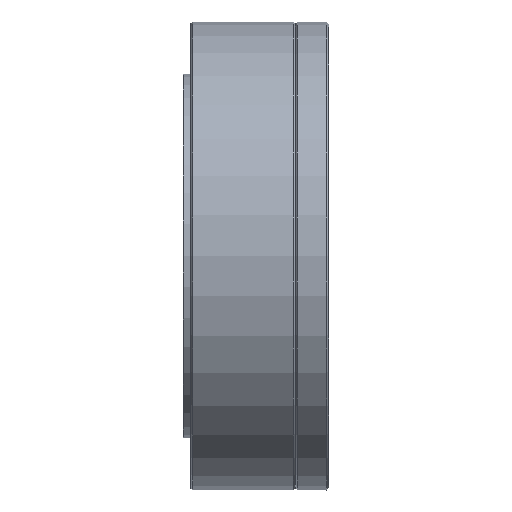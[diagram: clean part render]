
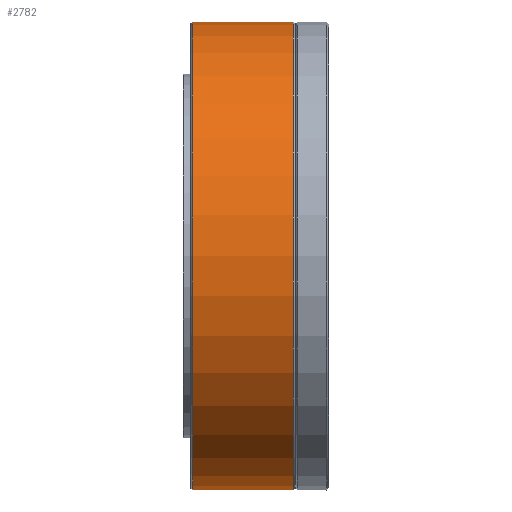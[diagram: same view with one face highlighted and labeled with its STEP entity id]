
A CAD part, top view. The second image highlights one B-rep face of the part: STEP entity #2782.
In plain terms, the highlighted cylindrical face has radius 45 mm (diameter 90 mm), a partial arc.
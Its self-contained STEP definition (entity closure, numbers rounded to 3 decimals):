
#375 = DIRECTION ( 'NONE',  ( 0., -1., 0. ) ) ;
#1568 = CARTESIAN_POINT ( 'NONE',  ( 1.823, 0., 0. ) ) ;
#1606 = CARTESIAN_POINT ( 'NONE',  ( 1.823, -45., 0. ) ) ;
#2230 = VERTEX_POINT ( 'NONE', #1606 ) ;
#2782 = ADVANCED_FACE ( 'NONE', ( #17929 ), #5691, .T. ) ;
#3142 = EDGE_CURVE ( 'NONE', #25618, #3881, #26569, .T. ) ;
#3627 = DIRECTION ( 'NONE',  ( 0., -1., 0. ) ) ;
#3881 = VERTEX_POINT ( 'NONE', #18166 ) ;
#4779 = LINE ( 'NONE', #16839, #14440 ) ;
#5691 = CYLINDRICAL_SURFACE ( 'NONE', #11014, 45. ) ;
#6420 = AXIS2_PLACEMENT_3D ( 'NONE', #1568, #15980, #3627 ) ;
#6581 = EDGE_CURVE ( 'NONE', #2230, #3881, #14257, .T. ) ;
#6827 = CARTESIAN_POINT ( 'NONE',  ( 21.177, 45., 0. ) ) ;
#7222 = VERTEX_POINT ( 'NONE', #18602 ) ;
#8665 = DIRECTION ( 'NONE',  ( 0., -1., 0. ) ) ;
#9859 = DIRECTION ( 'NONE',  ( -1., 0., 0. ) ) ;
#10191 = VECTOR ( 'NONE', #26252, 1000. ) ;
#11014 = AXIS2_PLACEMENT_3D ( 'NONE', #24204, #9859, #8665 ) ;
#12701 = DIRECTION ( 'NONE',  ( -1., 0., 0. ) ) ;
#13415 = ORIENTED_EDGE ( 'NONE', *, *, #23738, .T. ) ;
#14257 = CIRCLE ( 'NONE', #6420, 45. ) ;
#14440 = VECTOR ( 'NONE', #18883, 1000. ) ;
#15358 = EDGE_LOOP ( 'NONE', ( #13415, #16103, #24408, #24140 ) ) ;
#15980 = DIRECTION ( 'NONE',  ( -1., 0., 0. ) ) ;
#16103 = ORIENTED_EDGE ( 'NONE', *, *, #3142, .T. ) ;
#16839 = CARTESIAN_POINT ( 'NONE',  ( 0., -45., 0. ) ) ;
#17929 = FACE_OUTER_BOUND ( 'NONE', #15358, .T. ) ;
#18081 = CARTESIAN_POINT ( 'NONE',  ( 0., 45., 0. ) ) ;
#18166 = CARTESIAN_POINT ( 'NONE',  ( 1.823, 45., 0. ) ) ;
#18602 = CARTESIAN_POINT ( 'NONE',  ( 21.177, -45., 0. ) ) ;
#18883 = DIRECTION ( 'NONE',  ( -1., 0., 0. ) ) ;
#19103 = AXIS2_PLACEMENT_3D ( 'NONE', #24987, #12701, #375 ) ;
#21230 = CIRCLE ( 'NONE', #19103, 45. ) ;
#23738 = EDGE_CURVE ( 'NONE', #7222, #25618, #21230, .T. ) ;
#24140 = ORIENTED_EDGE ( 'NONE', *, *, #25474, .F. ) ;
#24204 = CARTESIAN_POINT ( 'NONE',  ( 0., 0., 0. ) ) ;
#24408 = ORIENTED_EDGE ( 'NONE', *, *, #6581, .F. ) ;
#24987 = CARTESIAN_POINT ( 'NONE',  ( 21.177, 0., 0. ) ) ;
#25474 = EDGE_CURVE ( 'NONE', #7222, #2230, #4779, .T. ) ;
#25618 = VERTEX_POINT ( 'NONE', #6827 ) ;
#26252 = DIRECTION ( 'NONE',  ( -1., 0., 0. ) ) ;
#26569 = LINE ( 'NONE', #18081, #10191 ) ;
